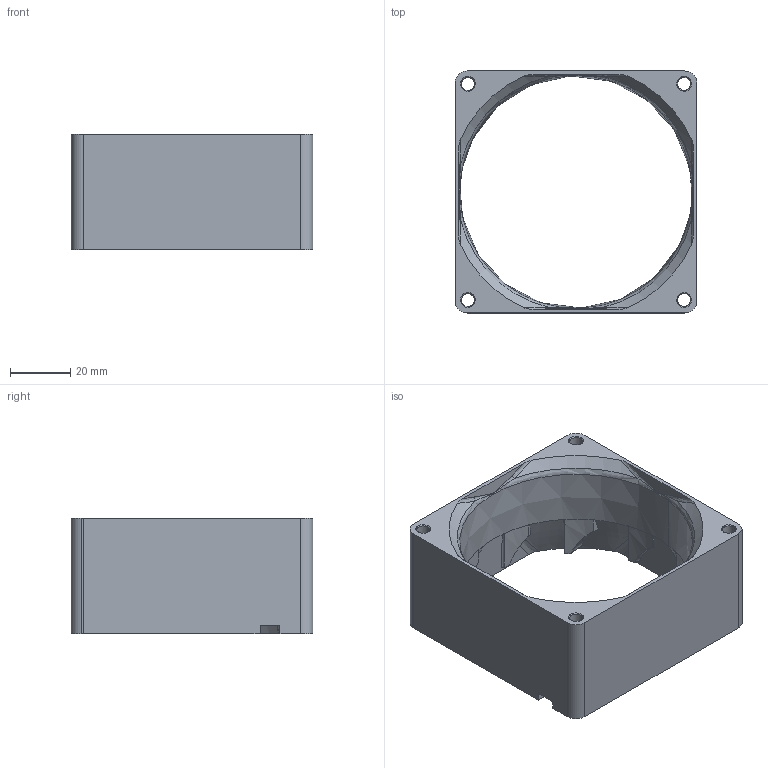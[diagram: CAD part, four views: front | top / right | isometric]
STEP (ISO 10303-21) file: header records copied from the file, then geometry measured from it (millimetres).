
FILE_DESCRIPTION (( 'STEP AP203' ), '1' );
FILE_NAME ('8038C 外框.STEP', '2026-07-08T01:52:31', ( '' ), ( '' ), 'SwSTEP 2.0', 'SolidWorks 2025', '' );
FILE_SCHEMA (( 'CONFIG_CONTROL_DESIGN' ));
Length unit declared in the file: millimetre
Products named in the file (1): 8038C 外框
Bounding box: 80 x 80 x 38.1 mm (x, y, z)
Volume: 57894 mm3; surface area: 26367.1 mm2
Topology: 1 solids, 1 shells, 196 faces, 527 edges, 332 vertices
Faces by surface type: plane 75, bspline 61, cylinder 29, cone 22, torus 9
Entity records: 21331 total; most frequent: CARTESIAN_POINT 16919, ORIENTED_EDGE 1054, DIRECTION 715, EDGE_CURVE 527, VERTEX_POINT 332, AXIS2_PLACEMENT_3D 279, B_SPLINE_CURVE_WITH_KNOTS 215, EDGE_LOOP 205
